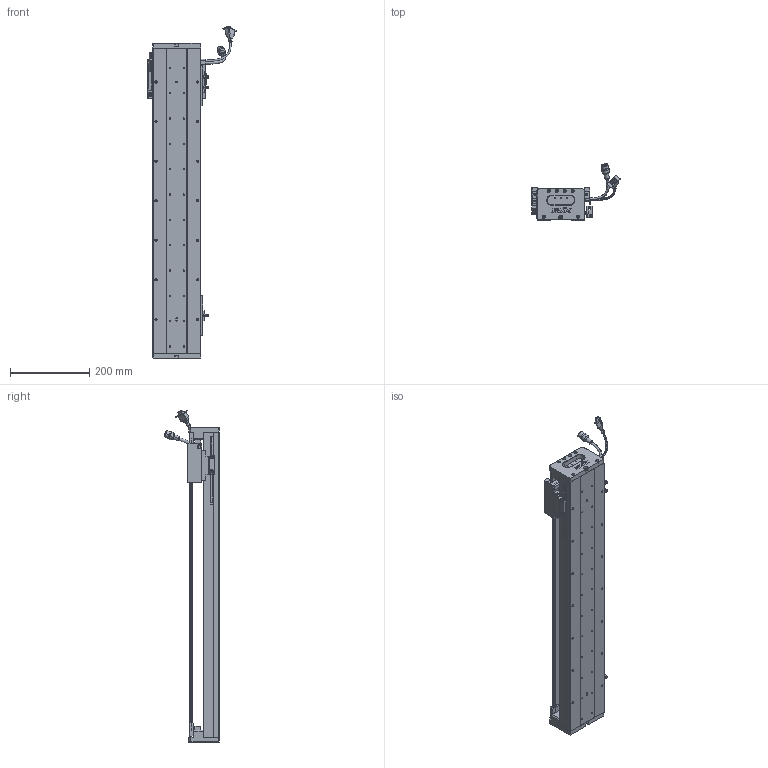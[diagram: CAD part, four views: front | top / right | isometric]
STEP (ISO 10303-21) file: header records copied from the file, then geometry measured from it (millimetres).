
FILE_DESCRIPTION (( 'STEP AP203' ), '1' );
FILE_NAME ('Z1-RY120D-1-L500-B-K.SLDASM_0600.step', '2021-05-17T03:45:00', ( '盈信电脑' ), ( '东莞市道滘镇水果街19号' ), 'SwSTEP 2.0', 'SolidWorks 2016', '' );
FILE_SCHEMA (( 'CONFIG_CONTROL_DESIGN' ));
Length unit declared in the file: millimetre
Products named in the file (37): HARNESS-Part-2; Z1-RY120D-1-L500-B-K.SLDASM_0600; 120-Z-臏賑輸盄裔(21遴); SEAL-Part-1; 榋妏寠巭燃_暯_M2_2; PSLH080_PSLF2; 140雄赽晤鎢ん堤盄; SCALE-Part-2; SCALE-Part-1; SCREW-M1.6-3; SCREW-M1.7; LABEL-Part-1; SCREW-M1.6-2; SEAL; COVER-Part-1; SCALE; Z-RY120D詩湍狟揤裔; PBU_SHEET; LABEL; SCREW-M1.6-1; HOLDER0; Z1-RY120铝滑块（21款）; Z1-RY120-L500詩湍100mm遵_0600; Z1-RY120-500-倰第菁釱_0600; 080黍杅芛假蚾釱21遴; SHIELDPLATE; HARNESS-Part-1; 672嫖萇羲壽假蚾釱; Z-RY120D詩湍奻揤裔; HARNESS; Z-120詩湍傷裔啣; SCREW-M1.7-1; COVER; 覜茼ん672; 140蚥薯蝶輸; SCREW-M1.6; RY100FB-遵嫖萇覜茼え
Assembly tree (43 placements, depth 4):
  Z1-RY120D-1-L500-B-K.SLDASM_0600
    Z1-RY120-500-倰第菁釱_0600
    覜茼ん672  x3
    672嫖萇羲壽假蚾釱  x2
    Z1-RY120铝滑块（21款）
    PSLH080_PSLF2
      SCALE
        SCALE-Part-1
        SCALE-Part-2
      HARNESS
        HARNESS-Part-1
        HARNESS-Part-2
      LABEL
        LABEL-Part-1
      COVER
        COVER-Part-1
      SEAL
        SEAL-Part-1
      榋妏寠巭燃_暯_M2_2
      SHIELDPLATE
      SCREW-M1.7
      SCREW-M1.7-1
      PBU_SHEET
      SCREW-M1.6
      SCREW-M1.6-1
      SCREW-M1.6-2
      SCREW-M1.6-3
      HOLDER0
    080黍杅芛假蚾釱21遴
    120-Z-臏賑輸盄裔(21遴)
    140雄赽晤鎢ん堤盄
    140蚥薯蝶輸  x2
    RY100FB-遵嫖萇覜茼え
    Z-120詩湍傷裔啣  x2
    Z-RY120D詩湍奻揤裔  x2
    Z-RY120D詩湍狟揤裔  x2
    Z1-RY120-L500詩湍100mm遵_0600
Bounding box: 222.88 x 140.94 x 839 mm (x, y, z)
Volume: 2249334.5 mm3; surface area: 781443.8 mm2
Topology: 38 solids, 38 shells, 2569 faces, 6858 edges, 4336 vertices
Faces by surface type: cylinder 1114, plane 1087, cone 246, torus 69, bspline 53
Entity records: 74811 total; most frequent: CARTESIAN_POINT 19248, ORIENTED_EDGE 10748, DIRECTION 10712, EDGE_CURVE 5374, AXIS2_PLACEMENT_3D 3886, VERTEX_POINT 3456, LINE 2940, VECTOR 2940
